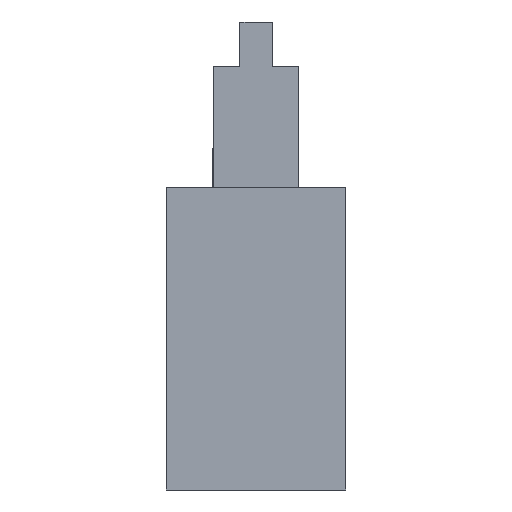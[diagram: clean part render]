
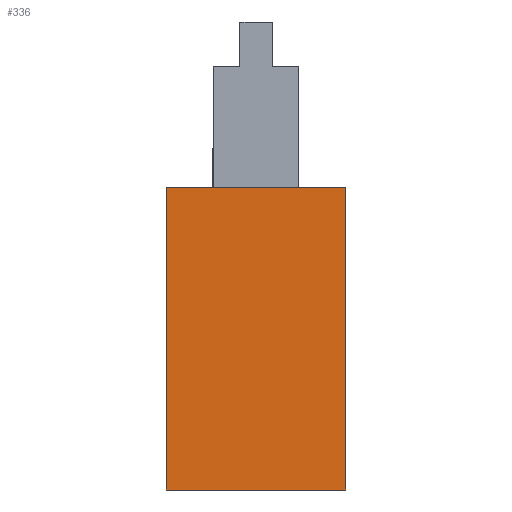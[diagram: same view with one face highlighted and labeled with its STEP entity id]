
A CAD part, front view. The second image highlights one B-rep face of the part: STEP entity #336.
In plain terms, the highlighted planar face has unit normal (0, -1, 0).
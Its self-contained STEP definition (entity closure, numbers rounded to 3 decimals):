
#1=DIRECTION('',(0.,0.,1.));
#2=VECTOR('',#1,102.57);
#3=CARTESIAN_POINT('',(-30.43,0.,-51.285));
#4=LINE('',#3,#2);
#5=DIRECTION('',(1.,0.,0.));
#6=VECTOR('',#5,60.86);
#7=CARTESIAN_POINT('',(-30.43,0.,51.285));
#8=LINE('',#7,#6);
#9=DIRECTION('',(0.,0.,-1.));
#10=VECTOR('',#9,102.57);
#11=CARTESIAN_POINT('',(30.43,0.,51.285));
#12=LINE('',#11,#10);
#13=DIRECTION('',(-1.,0.,0.));
#14=VECTOR('',#13,60.86);
#15=CARTESIAN_POINT('',(30.43,0.,-51.285));
#16=LINE('',#15,#14);
#241=CARTESIAN_POINT('',(-30.43,0.,-51.285));
#242=CARTESIAN_POINT('',(-30.43,0.,51.285));
#243=VERTEX_POINT('',#241);
#244=VERTEX_POINT('',#242);
#245=CARTESIAN_POINT('',(30.43,0.,51.285));
#246=VERTEX_POINT('',#245);
#247=CARTESIAN_POINT('',(30.43,0.,-51.285));
#248=VERTEX_POINT('',#247);
#321=CARTESIAN_POINT('',(0.,0.,0.));
#322=DIRECTION('',(0.,1.,0.));
#323=DIRECTION('',(1.,0.,0.));
#324=AXIS2_PLACEMENT_3D('',#321,#322,#323);
#325=PLANE('',#324);
#327=ORIENTED_EDGE('',*,*,#326,.T.);
#329=ORIENTED_EDGE('',*,*,#328,.T.);
#331=ORIENTED_EDGE('',*,*,#330,.T.);
#333=ORIENTED_EDGE('',*,*,#332,.T.);
#334=EDGE_LOOP('',(#327,#329,#331,#333));
#335=FACE_OUTER_BOUND('',#334,.F.);
#326=EDGE_CURVE('',#243,#244,#4,.T.);
#328=EDGE_CURVE('',#244,#246,#8,.T.);
#330=EDGE_CURVE('',#246,#248,#12,.T.);
#332=EDGE_CURVE('',#248,#243,#16,.T.);
#336=ADVANCED_FACE('',(#335),#325,.F.);
